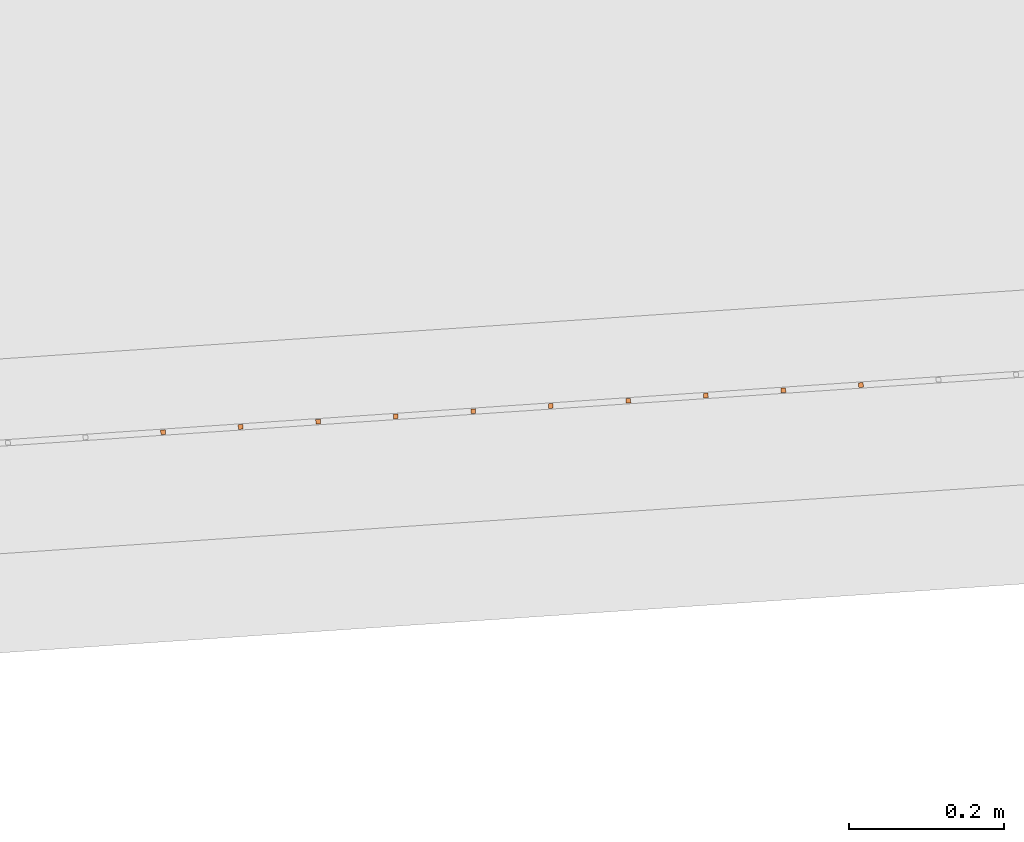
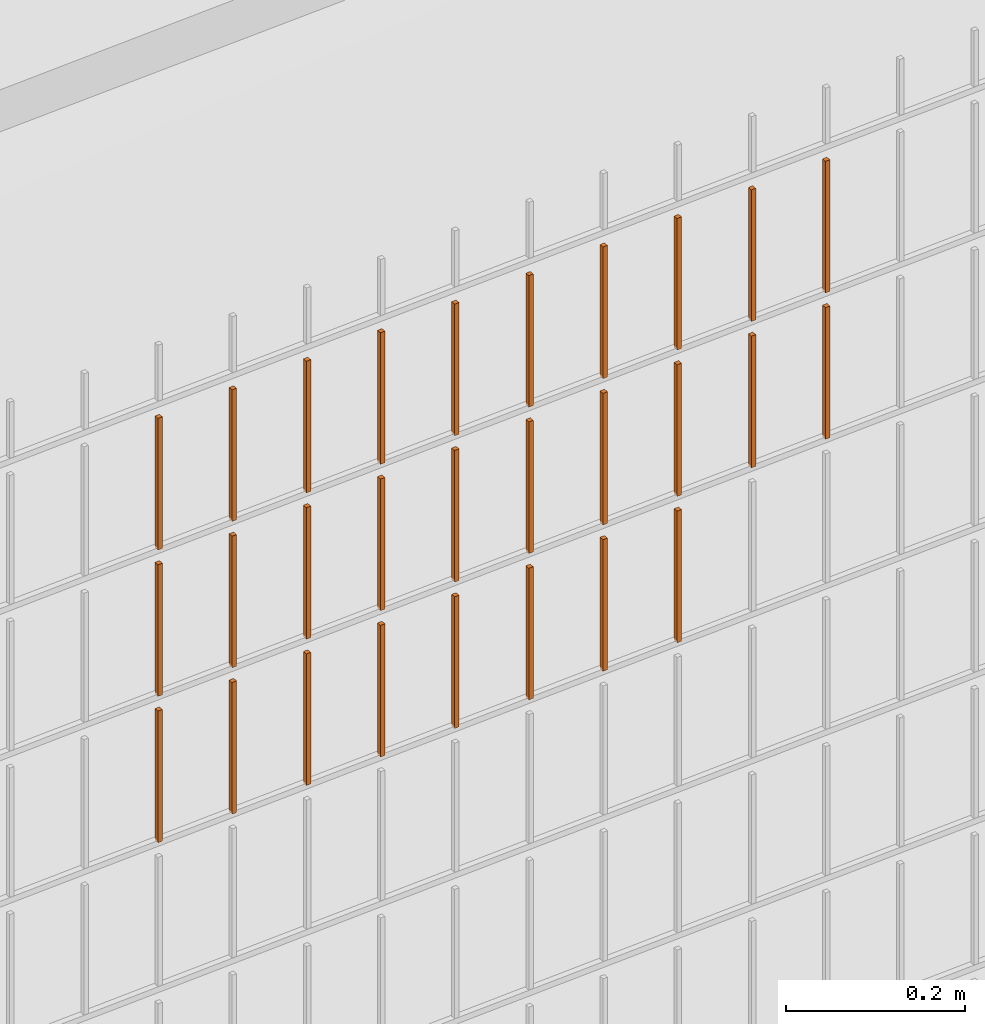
# One storey, part 288 of 1809: 28 proxies, 1 element without a shape of its own.
"""IFC2X3 building model written with IfcOpenShell, lengths in millimetres."""

from ifc_helpers import new_model, entity, si_unit, converted_unit, derived_unit, money_unit, direction, frame, origin_with_axes, place, context, subcontext, project, spatial, faceted_brep, source, transform, mapped, material, type_object, element, aggregate, save


model = new_model("IFC2X3")

# Units and contexts
model_context = context("Model", 3, precision=0.01, world=origin_with_axes(), true_north=direction((0.0, 1.0)))
body_context = subcontext(model_context, "Body", "Model", "MODEL_VIEW")
ifc_project = project(units=[si_unit("LENGTHUNIT", "METRE", prefix="MILLI"), si_unit("AREAUNIT", "SQUARE_METRE"), si_unit("VOLUMEUNIT", "CUBIC_METRE"), converted_unit("PLANEANGLEUNIT", "DEGREE", entity("IfcPlaneAngleMeasure", 0.0174532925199), si_unit("PLANEANGLEUNIT", "RADIAN"), dimensions=[0, 0, 0, 0, 0, 0, 0]), si_unit("SOLIDANGLEUNIT", "STERADIAN"), money_unit("EUR"), converted_unit("TIMEUNIT", "Year", entity("IfcTimeMeasure", 31556926.0), si_unit("TIMEUNIT", "SECOND"), dimensions=[0, 0, 1, 0, 0, 0, 0]), si_unit("MASSUNIT", "GRAM", prefix="KILO"), si_unit("THERMODYNAMICTEMPERATUREUNIT", "DEGREE_CELSIUS"), si_unit("LUMINOUSINTENSITYUNIT", "LUMEN"), si_unit("ENERGYUNIT", "JOULE", prefix="MEGA"), derived_unit("THERMALCONDUCTANCEUNIT", [(si_unit("POWERUNIT", "WATT"), 1), (si_unit("LENGTHUNIT", "METRE"), -1), (si_unit("THERMODYNAMICTEMPERATUREUNIT", "KELVIN"), -1)]), derived_unit("SPECIFICHEATCAPACITYUNIT", [(si_unit("ENERGYUNIT", "JOULE"), 1), (si_unit("MASSUNIT", "GRAM", prefix="KILO"), -1), (si_unit("THERMODYNAMICTEMPERATUREUNIT", "KELVIN"), -1)]), derived_unit("MASSDENSITYUNIT", [(si_unit("MASSUNIT", "GRAM", prefix="KILO"), 1), (si_unit("VOLUMEUNIT", "CUBIC_METRE"), -1)])], contexts=[model_context])

# Site, building, storey
site_placement = place(None, origin_with_axes())
site = spatial("IfcSite", under=ifc_project, at=site_placement, Name="Politse- ja Piirivalveameti ning Päästeameti ühishoone", CompositionType="ELEMENT")
building_placement = place(site_placement, origin_with_axes())
building = spatial("IfcBuilding", under=site, at=building_placement, Name="Politse- ja Piirivalveameti ning Päästeameti ühishoone", CompositionType="ELEMENT")
storey_placement = place(building_placement, origin_with_axes())
storey = spatial("IfcBuildingStorey", under=building, at=storey_placement, Name="Esimene korrus", CompositionType="ELEMENT", Elevation=0.0)

# Proxies
building_element_proxy_type_1 = type_object("IfcBuildingElementProxyType", Name="Railing Type", PredefinedType="NOTDEFINED")
proxy_1_placement = place(storey_placement, frame((89252.001212, -29183.4766571, 203.661247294), z_axis=(0.0, 0.0, 1.0), x_axis=(1.0, 0.0, 0.0)))
proxy_1 = element("IfcBuildingElementProxy", 1, at=proxy_1_placement, inside=storey, type_object=building_element_proxy_type_1, Name="PIIRDEAED")
ifc_material = material(Name="ET-03_Raud")
building_element_proxy_type_2 = type_object("IfcBuildingElementProxyType", Name="IfcBuildingElementProxy", PredefinedType="NOTDEFINED")
shared_shape_1 = source(origin_with_axes(), body_context, "Body", "Brep", [
    faceted_brep([(3.0, 3.0, -0.000752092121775), (-3.0, 3.0, -0.000752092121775), (-3.0, 3.0, 179.99926046), (3.0, 3.0, 179.99926046), (3.0, -3.0, 0.000752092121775), (-3.0, -3.0, 0.000752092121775), (-3.0, -3.0, 180.000764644), (3.0, -3.0, 180.000764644)], [[[0, 1, 2, 3]], [[0, 4, 5, 1]], [[1, 5, 6, 2]], [[3, 2, 6, 7]], [[4, 0, 3, 7]], [[5, 4, 7, 6]]]),
])
proxy_2_placement = place(proxy_1_placement, frame((-48316.5913585, -20561.3781676, 1815.09394201), z_axis=(0.0, 0.0, 1.0), x_axis=(1.0, 0.0, 0.0)))
proxy_2 = element("IfcBuildingElementProxy", 2, at=proxy_2_placement, type_object=building_element_proxy_type_2, material=ifc_material, Name="BALUSTER - 001", context=body_context, shape_type="MappedRepresentation", body=[
    mapped(shared_shape_1, transform((0.0, 0.0, 0.0), x_axis=(-0.0673926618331, 0.997726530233, 0.0), y_axis=(-0.997726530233, -0.0673926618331, 0.0), z_axis=(0.0, 0.0, 1.0))),
])
shared_shape_2 = source(origin_with_axes(), body_context, "Body", "Brep", [
    faceted_brep([(3.0, 3.0, -0.000752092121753), (-3.0, 3.0, -0.000752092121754), (-3.0, 3.0, 179.99926046), (3.0, 3.0, 179.99926046), (3.0, -3.0, 0.000752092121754), (-3.0, -3.0, 0.000752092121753), (-3.0, -3.0, 180.000764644), (3.0, -3.0, 180.000764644)], [[[0, 1, 2, 3]], [[0, 4, 5, 1]], [[1, 5, 6, 2]], [[3, 2, 6, 7]], [[4, 0, 3, 7]], [[5, 4, 7, 6]]]),
])
proxy_3_placement = place(proxy_1_placement, frame((-48815.4546236, -20595.0744985, 1814.96859332), z_axis=(0.0, 0.0, 1.0), x_axis=(1.0, 0.0, 0.0)))
proxy_3 = element("IfcBuildingElementProxy", 3, at=proxy_3_placement, type_object=building_element_proxy_type_2, material=ifc_material, Name="BALUSTER - 001", context=body_context, shape_type="MappedRepresentation", body=[
    mapped(shared_shape_2, transform((0.0, 0.0, 0.0), x_axis=(-0.0673926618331, 0.997726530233, 0.0), y_axis=(-0.997726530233, -0.0673926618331, 0.0), z_axis=(0.0, 0.0, 1.0))),
])
shared_shape_3 = source(origin_with_axes(), body_context, "Body", "Brep", [
    faceted_brep([(3.0, 3.0, -0.000752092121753), (-3.0, 3.0, -0.000752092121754), (-3.0, 3.0, 179.99926046), (3.0, 3.0, 179.99926046), (3.0, -3.0, 0.000752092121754), (-3.0, -3.0, 0.000752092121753), (-3.0, -3.0, 180.000764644), (3.0, -3.0, 180.000764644)], [[[0, 1, 2, 3]], [[0, 4, 5, 1]], [[1, 5, 6, 2]], [[3, 2, 6, 7]], [[4, 0, 3, 7]], [[5, 4, 7, 6]]]),
])
proxy_4_placement = place(proxy_1_placement, frame((-48815.4546236, -20595.0744985, 1414.96859332), z_axis=(0.0, 0.0, 1.0), x_axis=(1.0, 0.0, 0.0)))
proxy_4 = element("IfcBuildingElementProxy", 4, at=proxy_4_placement, type_object=building_element_proxy_type_2, material=ifc_material, Name="BALUSTER - 001", context=body_context, shape_type="MappedRepresentation", body=[
    mapped(shared_shape_3, transform((0.0, 0.0, 0.0), x_axis=(-0.0673926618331, 0.997726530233, 0.0), y_axis=(-0.997726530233, -0.0673926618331, 0.0), z_axis=(0.0, 0.0, 1.0))),
])
proxy_5_placement = place(proxy_1_placement, frame((-48815.4546236, -20595.0744985, 1614.96859332), z_axis=(0.0, 0.0, 1.0), x_axis=(1.0, 0.0, 0.0)))
proxy_5 = element("IfcBuildingElementProxy", 5, at=proxy_5_placement, type_object=building_element_proxy_type_2, material=ifc_material, Name="BALUSTER - 001", context=body_context, shape_type="MappedRepresentation", body=[
    mapped(shared_shape_3, transform((0.0, 0.0, 0.0), x_axis=(-0.0673926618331, 0.997726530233, 0.0), y_axis=(-0.997726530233, -0.0673926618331, 0.0), z_axis=(0.0, 0.0, 1.0))),
])
shared_shape_4 = source(origin_with_axes(), body_context, "Body", "Brep", [
    faceted_brep([(3.0, 3.0, -0.000752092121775), (-3.0, 3.0, -0.000752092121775), (-3.0, 3.0, 179.99926046), (3.0, 3.0, 179.99926046), (3.0, -3.0, 0.000752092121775), (-3.0, -3.0, 0.000752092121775), (-3.0, -3.0, 180.000764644), (3.0, -3.0, 180.000764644)], [[[0, 1, 2, 3]], [[0, 4, 5, 1]], [[1, 5, 6, 2]], [[3, 2, 6, 7]], [[4, 0, 3, 7]], [[5, 4, 7, 6]]]),
])
proxy_6_placement = place(proxy_1_placement, frame((-48316.5913585, -20561.3781676, 1615.09394201), z_axis=(0.0, 0.0, 1.0), x_axis=(1.0, 0.0, 0.0)))
proxy_6 = element("IfcBuildingElementProxy", 6, at=proxy_6_placement, type_object=building_element_proxy_type_2, material=ifc_material, Name="BALUSTER - 001", context=body_context, shape_type="MappedRepresentation", body=[
    mapped(shared_shape_4, transform((0.0, 0.0, 0.0), x_axis=(-0.0673926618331, 0.997726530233, 0.0), y_axis=(-0.997726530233, -0.0673926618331, 0.0), z_axis=(0.0, 0.0, 1.0))),
])
shared_shape_5 = source(origin_with_axes(), body_context, "Body", "Brep", [
    faceted_brep([(3.0, 3.0, -0.000752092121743), (-3.0, 3.0, -0.000752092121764), (-3.0, 3.0, 179.99926046), (3.0, 3.0, 179.99926046), (3.0, -3.0, 0.000752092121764), (-3.0, -3.0, 0.000752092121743), (-3.0, -3.0, 180.000764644), (3.0, -3.0, 180.000764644)], [[[0, 1, 2, 3]], [[0, 4, 5, 1]], [[1, 5, 6, 2]], [[3, 2, 6, 7]], [[4, 0, 3, 7]], [[5, 4, 7, 6]]]),
])
proxy_7_placement = place(proxy_1_placement, frame((-48615.9093175, -20581.5959662, 1815.0187328), z_axis=(0.0, 0.0, 1.0), x_axis=(1.0, 0.0, 0.0)))
proxy_7 = element("IfcBuildingElementProxy", 7, at=proxy_7_placement, type_object=building_element_proxy_type_2, material=ifc_material, Name="BALUSTER - 001", context=body_context, shape_type="MappedRepresentation", body=[
    mapped(shared_shape_5, transform((0.0, 0.0, 0.0), x_axis=(-0.0673926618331, 0.997726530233, 0.0), y_axis=(-0.997726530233, -0.0673926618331, 0.0), z_axis=(0.0, 0.0, 1.0))),
])
shared_shape_6 = source(origin_with_axes(), body_context, "Body", "Brep", [
    faceted_brep([(3.0, 3.0, -0.000752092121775), (-3.0, 3.0, -0.000752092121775), (-3.0, 3.0, 179.99926046), (3.0, 3.0, 179.99926046), (3.0, -3.0, 0.000752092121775), (-3.0, -3.0, 0.000752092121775), (-3.0, -3.0, 180.000764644), (3.0, -3.0, 180.000764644)], [[[0, 1, 2, 3]], [[0, 4, 5, 1]], [[1, 5, 6, 2]], [[3, 2, 6, 7]], [[4, 0, 3, 7]], [[5, 4, 7, 6]]]),
])
proxy_8_placement = place(proxy_1_placement, frame((-48216.8187054, -20554.6389014, 1615.11901175), z_axis=(0.0, 0.0, 1.0), x_axis=(1.0, 0.0, 0.0)))
proxy_8 = element("IfcBuildingElementProxy", 8, at=proxy_8_placement, type_object=building_element_proxy_type_2, material=ifc_material, Name="BALUSTER - 001", context=body_context, shape_type="MappedRepresentation", body=[
    mapped(shared_shape_6, transform((0.0, 0.0, 0.0), x_axis=(-0.0673926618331, 0.997726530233, 0.0), y_axis=(-0.997726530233, -0.0673926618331, 0.0), z_axis=(0.0, 0.0, 1.0))),
])
shared_shape_7 = source(origin_with_axes(), body_context, "Body", "Brep", [
    faceted_brep([(3.0, 3.0, -0.000752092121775), (-3.0, 3.0, -0.000752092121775), (-3.0, 3.0, 179.99926046), (3.0, 3.0, 179.99926046), (3.0, -3.0, 0.000752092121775), (-3.0, -3.0, 0.000752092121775), (-3.0, -3.0, 180.000764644), (3.0, -3.0, 180.000764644)], [[[0, 1, 2, 3]], [[0, 4, 5, 1]], [[1, 5, 6, 2]], [[3, 2, 6, 7]], [[4, 0, 3, 7]], [[5, 4, 7, 6]]]),
])
proxy_9_placement = place(proxy_1_placement, frame((-48216.8187054, -20554.6389014, 1815.11901175), z_axis=(0.0, 0.0, 1.0), x_axis=(1.0, 0.0, 0.0)))
proxy_9 = element("IfcBuildingElementProxy", 9, at=proxy_9_placement, type_object=building_element_proxy_type_2, material=ifc_material, Name="BALUSTER - 001", context=body_context, shape_type="MappedRepresentation", body=[
    mapped(shared_shape_7, transform((0.0, 0.0, 0.0), x_axis=(-0.0673926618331, 0.997726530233, 0.0), y_axis=(-0.997726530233, -0.0673926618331, 0.0), z_axis=(0.0, 0.0, 1.0))),
])
proxy_10_placement = place(proxy_1_placement, frame((-49014.9999296, -20608.5530309, 1814.91845385), z_axis=(0.0, 0.0, 1.0), x_axis=(1.0, 0.0, 0.0)))
proxy_10 = element("IfcBuildingElementProxy", 10, at=proxy_10_placement, type_object=building_element_proxy_type_2, material=ifc_material, Name="BALUSTER - 001", context=body_context, shape_type="MappedRepresentation", body=[
    mapped(shared_shape_7, transform((0.0, 0.0, 0.0), x_axis=(-0.0673926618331, 0.997726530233, 0.0), y_axis=(-0.997726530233, -0.0673926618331, 0.0), z_axis=(0.0, 0.0, 1.0))),
])
shared_shape_8 = source(origin_with_axes(), body_context, "Body", "Brep", [
    faceted_brep([(3.0, 3.0, -0.000752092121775), (-3.0, 3.0, -0.000752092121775), (-3.0, 3.0, 179.99926046), (3.0, 3.0, 179.99926046), (3.0, -3.0, 0.000752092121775), (-3.0, -3.0, 0.000752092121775), (-3.0, -3.0, 180.000764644), (3.0, -3.0, 180.000764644)], [[[0, 1, 2, 3]], [[0, 4, 5, 1]], [[1, 5, 6, 2]], [[3, 2, 6, 7]], [[4, 0, 3, 7]], [[5, 4, 7, 6]]]),
])
proxy_11_placement = place(proxy_1_placement, frame((-49014.9999296, -20608.5530309, 1414.91845385), z_axis=(0.0, 0.0, 1.0), x_axis=(1.0, 0.0, 0.0)))
proxy_11 = element("IfcBuildingElementProxy", 11, at=proxy_11_placement, type_object=building_element_proxy_type_2, material=ifc_material, Name="BALUSTER - 001", context=body_context, shape_type="MappedRepresentation", body=[
    mapped(shared_shape_8, transform((0.0, 0.0, 0.0), x_axis=(-0.0673926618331, 0.997726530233, 0.0), y_axis=(-0.997726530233, -0.0673926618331, 0.0), z_axis=(0.0, 0.0, 1.0))),
])
proxy_12_placement = place(proxy_1_placement, frame((-49014.9999296, -20608.5530309, 1614.91845385), z_axis=(0.0, 0.0, 1.0), x_axis=(1.0, 0.0, 0.0)))
proxy_12 = element("IfcBuildingElementProxy", 12, at=proxy_12_placement, type_object=building_element_proxy_type_2, material=ifc_material, Name="BALUSTER - 001", context=body_context, shape_type="MappedRepresentation", body=[
    mapped(shared_shape_8, transform((0.0, 0.0, 0.0), x_axis=(-0.0673926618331, 0.997726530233, 0.0), y_axis=(-0.997726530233, -0.0673926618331, 0.0), z_axis=(0.0, 0.0, 1.0))),
])
shared_shape_9 = source(origin_with_axes(), body_context, "Body", "Brep", [
    faceted_brep([(3.0, 3.0, -0.000752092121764), (-3.0, 3.0, -0.000752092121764), (-3.0, 3.0, 179.99926046), (3.0, 3.0, 179.99926046), (3.0, -3.0, 0.000752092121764), (-3.0, -3.0, 0.000752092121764), (-3.0, -3.0, 180.000764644), (3.0, -3.0, 180.000764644)], [[[0, 1, 2, 3]], [[0, 4, 5, 1]], [[1, 5, 6, 2]], [[3, 2, 6, 7]], [[4, 0, 3, 7]], [[5, 4, 7, 6]]]),
])
proxy_13_placement = place(proxy_1_placement, frame((-48715.6819706, -20588.3352324, 1814.99366306), z_axis=(0.0, 0.0, 1.0), x_axis=(1.0, 0.0, 0.0)))
proxy_13 = element("IfcBuildingElementProxy", 13, at=proxy_13_placement, type_object=building_element_proxy_type_2, material=ifc_material, Name="BALUSTER - 001", context=body_context, shape_type="MappedRepresentation", body=[
    mapped(shared_shape_9, transform((0.0, 0.0, 0.0), x_axis=(-0.0673926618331, 0.997726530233, 0.0), y_axis=(-0.997726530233, -0.0673926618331, 0.0), z_axis=(0.0, 0.0, 1.0))),
])
shared_shape_10 = source(origin_with_axes(), body_context, "Body", "Brep", [
    faceted_brep([(3.0, 3.0, -0.000752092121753), (-3.0, 3.0, -0.000752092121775), (-3.0, 3.0, 179.99926046), (3.0, 3.0, 179.99926046), (3.0, -3.0, 0.000752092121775), (-3.0, -3.0, 0.000752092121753), (-3.0, -3.0, 180.000764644), (3.0, -3.0, 180.000764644)], [[[0, 1, 2, 3]], [[0, 4, 5, 1]], [[1, 5, 6, 2]], [[3, 2, 6, 7]], [[4, 0, 3, 7]], [[5, 4, 7, 6]]]),
])
proxy_14_placement = place(proxy_1_placement, frame((-48416.3640115, -20568.1174338, 1415.06887227), z_axis=(0.0, 0.0, 1.0), x_axis=(1.0, 0.0, 0.0)))
proxy_14 = element("IfcBuildingElementProxy", 14, at=proxy_14_placement, type_object=building_element_proxy_type_2, material=ifc_material, Name="BALUSTER - 001", context=body_context, shape_type="MappedRepresentation", body=[
    mapped(shared_shape_10, transform((0.0, 0.0, 0.0), x_axis=(-0.0673926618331, 0.997726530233, 0.0), y_axis=(-0.997726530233, -0.0673926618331, 0.0), z_axis=(0.0, 0.0, 1.0))),
])
proxy_15_placement = place(proxy_1_placement, frame((-48516.1366645, -20574.8567, 1415.04380253), z_axis=(0.0, 0.0, 1.0), x_axis=(1.0, 0.0, 0.0)))
proxy_15 = element("IfcBuildingElementProxy", 15, at=proxy_15_placement, type_object=building_element_proxy_type_2, material=ifc_material, Name="BALUSTER - 001", context=body_context, shape_type="MappedRepresentation", body=[
    mapped(shared_shape_10, transform((0.0, 0.0, 0.0), x_axis=(-0.0673926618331, 0.997726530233, 0.0), y_axis=(-0.997726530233, -0.0673926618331, 0.0), z_axis=(0.0, 0.0, 1.0))),
])
proxy_16_placement = place(proxy_1_placement, frame((-48416.3640115, -20568.1174338, 1615.06887227), z_axis=(0.0, 0.0, 1.0), x_axis=(1.0, 0.0, 0.0)))
proxy_16 = element("IfcBuildingElementProxy", 16, at=proxy_16_placement, type_object=building_element_proxy_type_2, material=ifc_material, Name="BALUSTER - 001", context=body_context, shape_type="MappedRepresentation", body=[
    mapped(shared_shape_10, transform((0.0, 0.0, 0.0), x_axis=(-0.0673926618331, 0.997726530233, 0.0), y_axis=(-0.997726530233, -0.0673926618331, 0.0), z_axis=(0.0, 0.0, 1.0))),
])
proxy_17_placement = place(proxy_1_placement, frame((-48516.1366645, -20574.8567, 1615.04380253), z_axis=(0.0, 0.0, 1.0), x_axis=(1.0, 0.0, 0.0)))
proxy_17 = element("IfcBuildingElementProxy", 17, at=proxy_17_placement, type_object=building_element_proxy_type_2, material=ifc_material, Name="BALUSTER - 001", context=body_context, shape_type="MappedRepresentation", body=[
    mapped(shared_shape_10, transform((0.0, 0.0, 0.0), x_axis=(-0.0673926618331, 0.997726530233, 0.0), y_axis=(-0.997726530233, -0.0673926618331, 0.0), z_axis=(0.0, 0.0, 1.0))),
])
shared_shape_11 = source(origin_with_axes(), body_context, "Body", "Brep", [
    faceted_brep([(3.0, 3.0, -0.000752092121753), (-3.0, 3.0, -0.000752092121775), (-3.0, 3.0, 179.99926046), (3.0, 3.0, 179.99926046), (3.0, -3.0, 0.000752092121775), (-3.0, -3.0, 0.000752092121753), (-3.0, -3.0, 180.000764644), (3.0, -3.0, 180.000764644)], [[[0, 1, 2, 3]], [[0, 4, 5, 1]], [[1, 5, 6, 2]], [[3, 2, 6, 7]], [[4, 0, 3, 7]], [[5, 4, 7, 6]]]),
])
proxy_18_placement = place(proxy_1_placement, frame((-48416.3640115, -20568.1174338, 1815.06887227), z_axis=(0.0, 0.0, 1.0), x_axis=(1.0, 0.0, 0.0)))
proxy_18 = element("IfcBuildingElementProxy", 18, at=proxy_18_placement, type_object=building_element_proxy_type_2, material=ifc_material, Name="BALUSTER - 001", context=body_context, shape_type="MappedRepresentation", body=[
    mapped(shared_shape_11, transform((0.0, 0.0, 0.0), x_axis=(-0.0673926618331, 0.997726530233, 0.0), y_axis=(-0.997726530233, -0.0673926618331, 0.0), z_axis=(0.0, 0.0, 1.0))),
])
proxy_19_placement = place(proxy_1_placement, frame((-48516.1366645, -20574.8567, 1815.04380253), z_axis=(0.0, 0.0, 1.0), x_axis=(1.0, 0.0, 0.0)))
proxy_19 = element("IfcBuildingElementProxy", 19, at=proxy_19_placement, type_object=building_element_proxy_type_2, material=ifc_material, Name="BALUSTER - 001", context=body_context, shape_type="MappedRepresentation", body=[
    mapped(shared_shape_11, transform((0.0, 0.0, 0.0), x_axis=(-0.0673926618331, 0.997726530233, 0.0), y_axis=(-0.997726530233, -0.0673926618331, 0.0), z_axis=(0.0, 0.0, 1.0))),
])
shared_shape_12 = source(origin_with_axes(), body_context, "Body", "Brep", [
    faceted_brep([(3.0, 3.0, -0.000752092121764), (-3.0, 3.0, -0.000752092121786), (-3.0, 3.0, 179.99926046), (3.0, 3.0, 179.99926046), (3.0, -3.0, 0.000752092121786), (-3.0, -3.0, 0.000752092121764), (-3.0, -3.0, 180.000764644), (3.0, -3.0, 180.000764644)], [[[0, 1, 2, 3]], [[0, 4, 5, 1]], [[1, 5, 6, 2]], [[3, 2, 6, 7]], [[4, 0, 3, 7]], [[5, 4, 7, 6]]]),
])
proxy_20_placement = place(proxy_1_placement, frame((-48915.2272766, -20601.8137647, 1814.94352358), z_axis=(0.0, 0.0, 1.0), x_axis=(1.0, 0.0, 0.0)))
proxy_20 = element("IfcBuildingElementProxy", 20, at=proxy_20_placement, type_object=building_element_proxy_type_2, material=ifc_material, Name="BALUSTER - 001", context=body_context, shape_type="MappedRepresentation", body=[
    mapped(shared_shape_12, transform((0.0, 0.0, 0.0), x_axis=(-0.0673926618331, 0.997726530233, 0.0), y_axis=(-0.997726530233, -0.0673926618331, 0.0), z_axis=(0.0, 0.0, 1.0))),
])
shared_shape_13 = source(origin_with_axes(), body_context, "Body", "Brep", [
    faceted_brep([(3.0, 3.0, -0.000752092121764), (-3.0, 3.0, -0.000752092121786), (-3.0, 3.0, 179.99926046), (3.0, 3.0, 179.99926046), (3.0, -3.0, 0.000752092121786), (-3.0, -3.0, 0.000752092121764), (-3.0, -3.0, 180.000764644), (3.0, -3.0, 180.000764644)], [[[0, 1, 2, 3]], [[0, 4, 5, 1]], [[1, 5, 6, 2]], [[3, 2, 6, 7]], [[4, 0, 3, 7]], [[5, 4, 7, 6]]]),
])
proxy_21_placement = place(proxy_1_placement, frame((-48915.2272766, -20601.8137647, 1414.94352358), z_axis=(0.0, 0.0, 1.0), x_axis=(1.0, 0.0, 0.0)))
proxy_21 = element("IfcBuildingElementProxy", 21, at=proxy_21_placement, type_object=building_element_proxy_type_2, material=ifc_material, Name="BALUSTER - 001", context=body_context, shape_type="MappedRepresentation", body=[
    mapped(shared_shape_13, transform((0.0, 0.0, 0.0), x_axis=(-0.0673926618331, 0.997726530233, 0.0), y_axis=(-0.997726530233, -0.0673926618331, 0.0), z_axis=(0.0, 0.0, 1.0))),
])
proxy_22_placement = place(proxy_1_placement, frame((-48915.2272766, -20601.8137647, 1614.94352358), z_axis=(0.0, 0.0, 1.0), x_axis=(1.0, 0.0, 0.0)))
proxy_22 = element("IfcBuildingElementProxy", 22, at=proxy_22_placement, type_object=building_element_proxy_type_2, material=ifc_material, Name="BALUSTER - 001", context=body_context, shape_type="MappedRepresentation", body=[
    mapped(shared_shape_13, transform((0.0, 0.0, 0.0), x_axis=(-0.0673926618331, 0.997726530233, 0.0), y_axis=(-0.997726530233, -0.0673926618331, 0.0), z_axis=(0.0, 0.0, 1.0))),
])
shared_shape_14 = source(origin_with_axes(), body_context, "Body", "Brep", [
    faceted_brep([(3.0, 3.0, -0.000752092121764), (-3.0, 3.0, -0.000752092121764), (-3.0, 3.0, 179.99926046), (3.0, 3.0, 179.99926046), (3.0, -3.0, 0.000752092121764), (-3.0, -3.0, 0.000752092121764), (-3.0, -3.0, 180.000764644), (3.0, -3.0, 180.000764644)], [[[0, 1, 2, 3]], [[0, 4, 5, 1]], [[1, 5, 6, 2]], [[3, 2, 6, 7]], [[4, 0, 3, 7]], [[5, 4, 7, 6]]]),
])
proxy_23_placement = place(proxy_1_placement, frame((-48715.6819706, -20588.3352324, 1414.99366306), z_axis=(0.0, 0.0, 1.0), x_axis=(1.0, 0.0, 0.0)))
proxy_23 = element("IfcBuildingElementProxy", 23, at=proxy_23_placement, type_object=building_element_proxy_type_2, material=ifc_material, Name="BALUSTER - 001", context=body_context, shape_type="MappedRepresentation", body=[
    mapped(shared_shape_14, transform((0.0, 0.0, 0.0), x_axis=(-0.0673926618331, 0.997726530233, 0.0), y_axis=(-0.997726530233, -0.0673926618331, 0.0), z_axis=(0.0, 0.0, 1.0))),
])
proxy_24_placement = place(proxy_1_placement, frame((-48715.6819706, -20588.3352324, 1614.99366306), z_axis=(0.0, 0.0, 1.0), x_axis=(1.0, 0.0, 0.0)))
proxy_24 = element("IfcBuildingElementProxy", 24, at=proxy_24_placement, type_object=building_element_proxy_type_2, material=ifc_material, Name="BALUSTER - 001", context=body_context, shape_type="MappedRepresentation", body=[
    mapped(shared_shape_14, transform((0.0, 0.0, 0.0), x_axis=(-0.0673926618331, 0.997726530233, 0.0), y_axis=(-0.997726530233, -0.0673926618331, 0.0), z_axis=(0.0, 0.0, 1.0))),
])
shared_shape_15 = source(origin_with_axes(), body_context, "Body", "Brep", [
    faceted_brep([(3.0, 3.0, -0.000752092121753), (-3.0, 3.0, -0.000752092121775), (-3.0, 3.0, 179.99926046), (3.0, 3.0, 179.99926046), (3.0, -3.0, 0.000752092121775), (-3.0, -3.0, 0.000752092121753), (-3.0, -3.0, 180.000764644), (3.0, -3.0, 180.000764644)], [[[0, 1, 2, 3]], [[0, 4, 5, 1]], [[1, 5, 6, 2]], [[3, 2, 6, 7]], [[4, 0, 3, 7]], [[5, 4, 7, 6]]]),
])
proxy_25_placement = place(proxy_1_placement, frame((-49114.7725827, -20615.2922971, 1414.89338411), z_axis=(0.0, 0.0, 1.0), x_axis=(1.0, 0.0, 0.0)))
proxy_25 = element("IfcBuildingElementProxy", 25, at=proxy_25_placement, type_object=building_element_proxy_type_2, material=ifc_material, Name="BALUSTER - 001", context=body_context, shape_type="MappedRepresentation", body=[
    mapped(shared_shape_15, transform((0.0, 0.0, 0.0), x_axis=(-0.0673926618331, 0.997726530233, 0.0), y_axis=(-0.997726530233, -0.0673926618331, 0.0), z_axis=(0.0, 0.0, 1.0))),
])
proxy_26_placement = place(proxy_1_placement, frame((-49114.7725827, -20615.2922971, 1614.89338411), z_axis=(0.0, 0.0, 1.0), x_axis=(1.0, 0.0, 0.0)))
proxy_26 = element("IfcBuildingElementProxy", 26, at=proxy_26_placement, type_object=building_element_proxy_type_2, material=ifc_material, Name="BALUSTER - 001", context=body_context, shape_type="MappedRepresentation", body=[
    mapped(shared_shape_15, transform((0.0, 0.0, 0.0), x_axis=(-0.0673926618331, 0.997726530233, 0.0), y_axis=(-0.997726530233, -0.0673926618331, 0.0), z_axis=(0.0, 0.0, 1.0))),
])
shared_shape_16 = source(origin_with_axes(), body_context, "Body", "Brep", [
    faceted_brep([(3.0, 3.0, -0.000752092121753), (-3.0, 3.0, -0.000752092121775), (-3.0, 3.0, 179.99926046), (3.0, 3.0, 179.99926046), (3.0, -3.0, 0.000752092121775), (-3.0, -3.0, 0.000752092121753), (-3.0, -3.0, 180.000764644), (3.0, -3.0, 180.000764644)], [[[0, 1, 2, 3]], [[0, 4, 5, 1]], [[1, 5, 6, 2]], [[3, 2, 6, 7]], [[4, 0, 3, 7]], [[5, 4, 7, 6]]]),
])
proxy_27_placement = place(proxy_1_placement, frame((-49114.7725827, -20615.2922971, 1814.89338411), z_axis=(0.0, 0.0, 1.0), x_axis=(1.0, 0.0, 0.0)))
proxy_27 = element("IfcBuildingElementProxy", 27, at=proxy_27_placement, type_object=building_element_proxy_type_2, material=ifc_material, Name="BALUSTER - 001", context=body_context, shape_type="MappedRepresentation", body=[
    mapped(shared_shape_16, transform((0.0, 0.0, 0.0), x_axis=(-0.0673926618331, 0.997726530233, 0.0), y_axis=(-0.997726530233, -0.0673926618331, 0.0), z_axis=(0.0, 0.0, 1.0))),
])
shared_shape_17 = source(origin_with_axes(), body_context, "Body", "Brep", [
    faceted_brep([(3.0, 3.0, -0.000752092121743), (-3.0, 3.0, -0.000752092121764), (-3.0, 3.0, 179.99926046), (3.0, 3.0, 179.99926046), (3.0, -3.0, 0.000752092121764), (-3.0, -3.0, 0.000752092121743), (-3.0, -3.0, 180.000764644), (3.0, -3.0, 180.000764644)], [[[0, 1, 2, 3]], [[0, 4, 5, 1]], [[1, 5, 6, 2]], [[3, 2, 6, 7]], [[4, 0, 3, 7]], [[5, 4, 7, 6]]]),
])
proxy_28_placement = place(proxy_1_placement, frame((-48615.9093175, -20581.5959662, 1415.0187328), z_axis=(0.0, 0.0, 1.0), x_axis=(1.0, 0.0, 0.0)))
proxy_28 = element("IfcBuildingElementProxy", 28, at=proxy_28_placement, type_object=building_element_proxy_type_2, material=ifc_material, Name="BALUSTER - 001", context=body_context, shape_type="MappedRepresentation", body=[
    mapped(shared_shape_17, transform((0.0, 0.0, 0.0), x_axis=(-0.0673926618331, 0.997726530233, 0.0), y_axis=(-0.997726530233, -0.0673926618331, 0.0), z_axis=(0.0, 0.0, 1.0))),
])
proxy_29_placement = place(proxy_1_placement, frame((-48615.9093175, -20581.5959662, 1615.0187328), z_axis=(0.0, 0.0, 1.0), x_axis=(1.0, 0.0, 0.0)))
proxy_29 = element("IfcBuildingElementProxy", 29, at=proxy_29_placement, type_object=building_element_proxy_type_2, material=ifc_material, Name="BALUSTER - 001", context=body_context, shape_type="MappedRepresentation", body=[
    mapped(shared_shape_17, transform((0.0, 0.0, 0.0), x_axis=(-0.0673926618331, 0.997726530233, 0.0), y_axis=(-0.997726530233, -0.0673926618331, 0.0), z_axis=(0.0, 0.0, 1.0))),
])
aggregate(proxy_1, [proxy_14, proxy_15, proxy_28, proxy_23, proxy_4, proxy_21, proxy_11, proxy_25, proxy_8, proxy_6, proxy_16, proxy_17, proxy_29, proxy_24, proxy_5, proxy_22, proxy_12, proxy_26, proxy_9, proxy_2, proxy_18, proxy_19, proxy_7, proxy_13, proxy_3, proxy_20, proxy_10, proxy_27])

save(model, "model.ifc")
